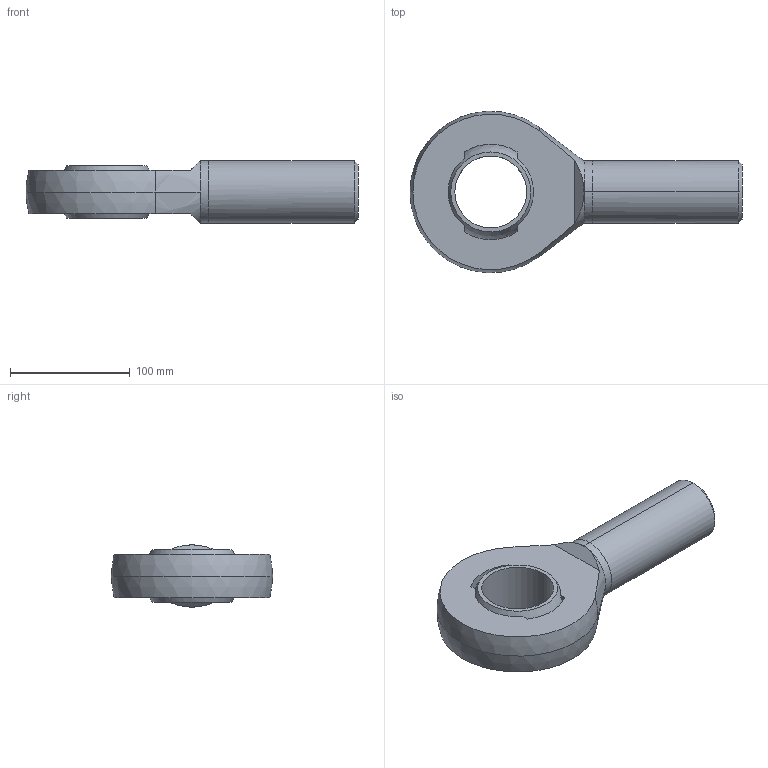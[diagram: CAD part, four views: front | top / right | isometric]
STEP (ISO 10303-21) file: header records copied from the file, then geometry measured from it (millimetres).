
FILE_DESCRIPTION (( 'STEP AP203' ), '1' );
FILE_NAME ('65860.W0561.step', '2014-02-06T11:42:59', ( 'User' ), ( '' ), 'SwSTEP 2.0', 'SolidWorks 2009', '' );
FILE_SCHEMA (( 'CONFIG_CONTROL_DESIGN' ));
Length unit declared in the file: millimetre
Products named in the file (3): Part1_65860.W0561; Part2_65860.W0561; 65860.W0561
Assembly tree (2 placements, depth 2):
  65860.W0561
    Part1_65860.W0561
    Part2_65860.W0561
Bounding box: 277.5 x 134.9 x 52 mm (x, y, z)
Volume: 720320.8 mm3; surface area: 87511.6 mm2
Topology: 2 solids, 2 shells, 35 faces, 82 edges, 51 vertices
Faces by surface type: plane 15, sphere 8, cylinder 8, cone 4
Entity records: 1397 total; most frequent: CARTESIAN_POINT 271, DIRECTION 196, ORIENTED_EDGE 160, AXIS2_PLACEMENT_3D 84, EDGE_CURVE 80, VERTEX_POINT 51, CIRCLE 44, EDGE_LOOP 41
